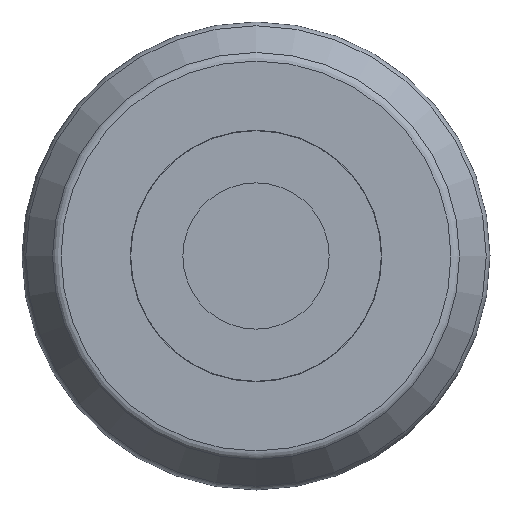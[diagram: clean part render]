
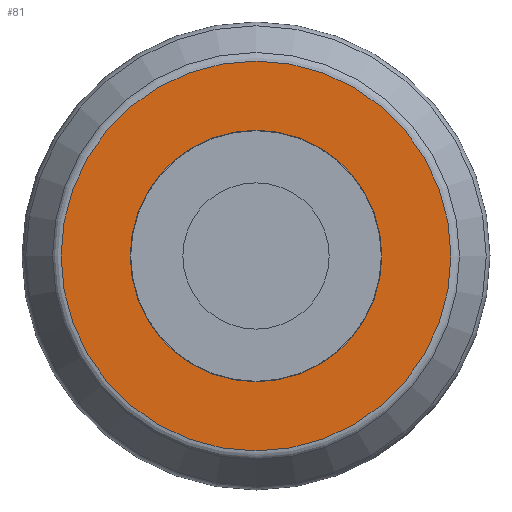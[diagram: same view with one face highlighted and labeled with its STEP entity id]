
A CAD part, left-side view. The second image highlights one B-rep face of the part: STEP entity #81.
In plain terms, the highlighted planar face has unit normal (-1, 0, 0).
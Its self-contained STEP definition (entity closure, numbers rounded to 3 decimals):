
#81 = ADVANCED_FACE( '', ( #121, #122 ), #123, .F. );
#121 = FACE_OUTER_BOUND( '', #198, .T. );
#122 = FACE_BOUND( '', #199, .T. );
#123 = PLANE( '', #200 );
#198 = EDGE_LOOP( '', ( #287 ) );
#199 = EDGE_LOOP( '', ( #288 ) );
#200 = AXIS2_PLACEMENT_3D( '', #289, #290, #291 );
#287 = ORIENTED_EDGE( '', *, *, #425, .F. );
#288 = ORIENTED_EDGE( '', *, *, #424, .T. );
#289 = CARTESIAN_POINT( '', ( -3.5, 0., -6.02 ) );
#290 = DIRECTION( '', ( 1., 0., 0. ) );
#291 = DIRECTION( '', ( 0., 0., -1. ) );
#424 = EDGE_CURVE( '', #468, #468, #469, .T. );
#425 = EDGE_CURVE( '', #470, #470, #471, .T. );
#468 = VERTEX_POINT( '', #538 );
#469 = CIRCLE( '', #539, 6.02 );
#470 = VERTEX_POINT( '', #540 );
#471 = CIRCLE( '', #541, 9.329 );
#538 = CARTESIAN_POINT( '', ( -3.5, 0., -6.02 ) );
#539 = AXIS2_PLACEMENT_3D( '', #631, #632, #633 );
#540 = CARTESIAN_POINT( '', ( -3.5, 0., -9.329 ) );
#541 = AXIS2_PLACEMENT_3D( '', #634, #635, #636 );
#631 = CARTESIAN_POINT( '', ( -3.5, 0., 0. ) );
#632 = DIRECTION( '', ( 1., 0., 0. ) );
#633 = DIRECTION( '', ( 0., 0., -1. ) );
#634 = CARTESIAN_POINT( '', ( -3.5, 0., 0. ) );
#635 = DIRECTION( '', ( 1., 0., 0. ) );
#636 = DIRECTION( '', ( 0., 0., -1. ) );
